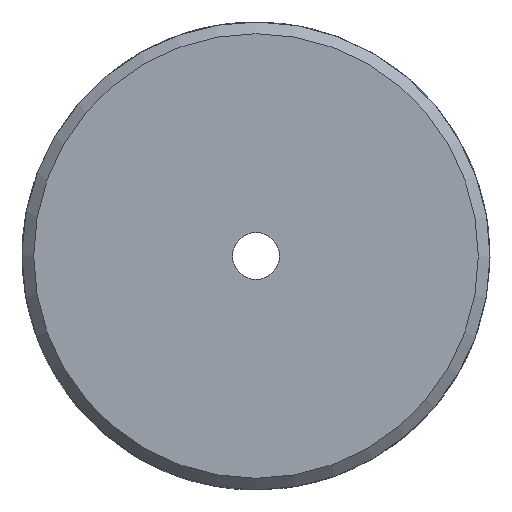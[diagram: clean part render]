
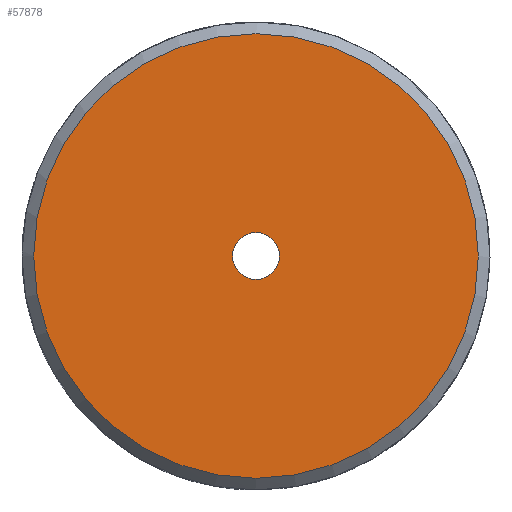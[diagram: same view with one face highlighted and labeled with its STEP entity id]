
A CAD part, left-side view. The second image highlights one B-rep face of the part: STEP entity #57878.
In plain terms, the highlighted planar face has unit normal (-1, 0, 0).
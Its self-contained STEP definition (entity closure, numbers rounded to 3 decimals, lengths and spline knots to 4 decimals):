
#16067=PLANE('',#57160);
#20746=ORIENTED_EDGE('',*,*,#22317,.F.);
#20747=ORIENTED_EDGE('',*,*,#23919,.F.);
#20749=CIRCLE('',#56159,9.5);
#21251=CIRCLE('',#57159,1.);
#21253=VERTEX_POINT('',#27035);
#22315=VERTEX_POINT('',#56152);
#22317=EDGE_CURVE('',#21253,#21253,#20749,.T.);
#23919=EDGE_CURVE('',#22315,#22315,#21251,.T.);
#24468=EDGE_LOOP('',(#20746));
#24469=EDGE_LOOP('',(#20747));
#25018=FACE_BOUND('',#24468,.T.);
#25019=FACE_BOUND('',#24469,.T.);
#25024=DIRECTION('',(1.,0.,0.));
#25025=DIRECTION('',(0.,0.,-9.5));
#27024=DIRECTION('',(-1.,0.,0.));
#27025=DIRECTION('',(0.,-1.,0.));
#27026=DIRECTION('',(-1.,0.,0.));
#27027=DIRECTION('',(0.,1.,0.));
#27035=CARTESIAN_POINT('',(30.8372,44.9784,-9.5));
#27036=CARTESIAN_POINT('',(30.8372,44.9784,0.));
#56152=CARTESIAN_POINT('',(30.8372,43.9784,0.));
#56153=CARTESIAN_POINT('',(30.8372,44.9784,0.));
#56154=CARTESIAN_POINT('',(30.8372,44.9784,-9.5));
#56159=AXIS2_PLACEMENT_3D('',#27036,#25024,#25025);
#57159=AXIS2_PLACEMENT_3D('',#56153,#27024,#27025);
#57160=AXIS2_PLACEMENT_3D('',#56154,#27026,#27027);
#57878=ADVANCED_FACE('',(#25018,#25019),#16067,.T.);
